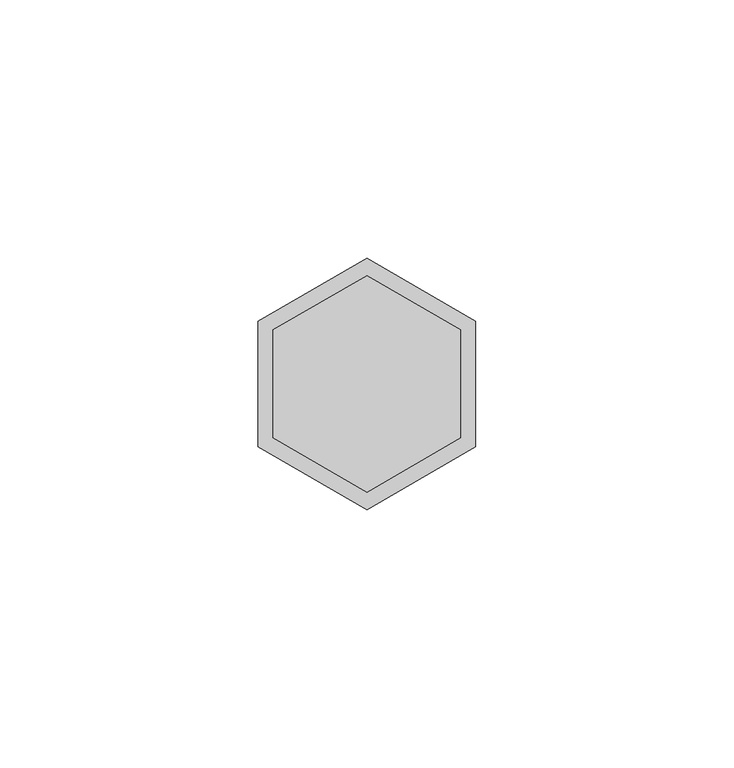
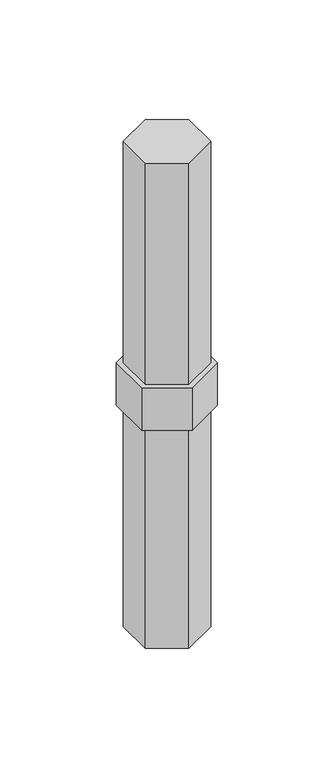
"""IFC4 building model written with IfcOpenShell, lengths in millimetres: proxy geometry, AK_アルバトロスＡＫ連結ピン_軽 : AK_アルバトロスＡＫ連結ピン."""

from ifc_helpers import new_model, si_unit, frame, origin, origin_with_axes, place, context, project, spatial, polyline, outline, extrude, source, transform, mapped, element, save


def generic_models_bc8bdfa8(model_context):
    return source(origin(), model_context, "Body", "SweptSolid", [
        extrude(outline(polyline([(18.1432322, -10.475), (0.0, -20.95), (-18.1432322, -10.475), (-18.1432322, 10.475), (0.0, 20.95), (18.1432322, 10.475), (18.1432322, -10.475)])), frame((0.0, 0.0, 25.0), z_axis=(0.0, 0.0, 1.0), x_axis=(1.0, 0.0, 0.0)), (0.0, 0.0, 1.0), 130.0),
        extrude(outline(polyline([(18.1432322, -10.475), (0.0, -20.95), (-18.1432322, -10.475), (-18.1432322, 10.475), (0.0, 20.95), (18.1432322, 10.475), (18.1432322, -10.475)])), frame((0.0, 0.0, -130.0), z_axis=(0.0, 0.0, 1.0), x_axis=(1.0, 0.0, 0.0)), (0.0, 0.0, 1.0), 130.0),
        extrude(outline(polyline([(21.0444173, -12.15), (0.0, -24.3), (-21.0444173, -12.15), (-21.0444173, 12.15), (0.0, 24.3), (21.0444173, 12.15), (21.0444173, -12.15)])), origin_with_axes(), (0.0, 0.0, 1.0), 25.0),
    ])


if __name__ == "__main__":
    model = new_model("IFC4")
    model_context = context("Model", 3, world=origin())
    ifc_project = project(units=[si_unit("LENGTHUNIT", "METRE", prefix="MILLI")], contexts=[model_context])
    site = spatial("IfcSite", under=ifc_project)
    building = spatial("IfcBuilding", under=site)
    placement = place(None, origin())
    generic_models_shape = generic_models_bc8bdfa8(model_context)
    element("IfcBuildingElementProxy", 1, Name="AK_アルバトロスＡＫ連結ピン_軽 : AK_アルバトロスＡＫ連結ピン", ObjectType="AK_アルバトロスＡＫ連結ピン_軽 : AK_アルバトロスＡＫ連結ピン", at=placement, inside=building, context=model_context, shape_type="MappedRepresentation", body=[
        mapped(generic_models_shape, transform((0.0, 0.0, 0.0), x_axis=(1.0, 0.0, 0.0), y_axis=(0.0, 1.0, 0.0), z_axis=(0.0, 0.0, 1.0))),
    ])
    save(model, "model.ifc")
